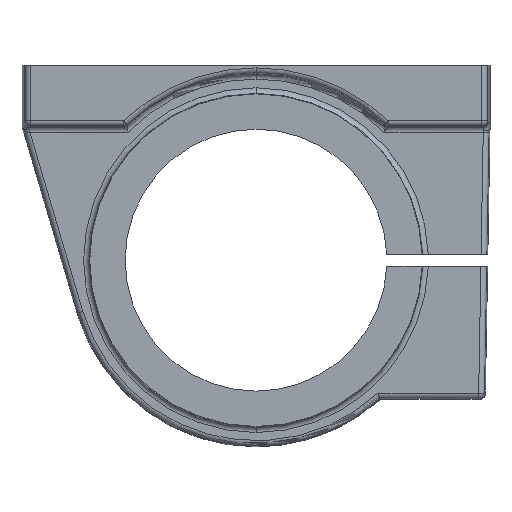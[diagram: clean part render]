
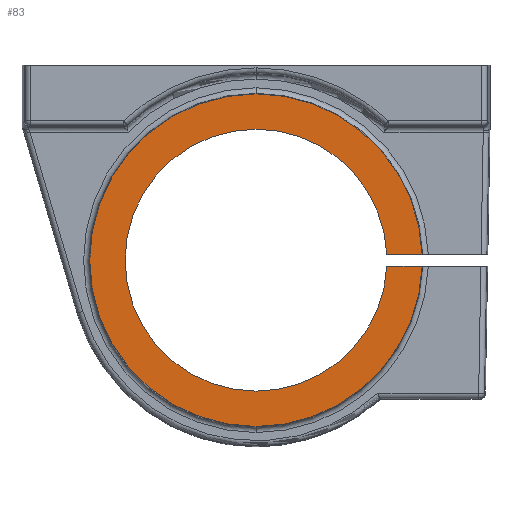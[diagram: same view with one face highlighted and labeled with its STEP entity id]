
A CAD part, front view. The second image highlights one B-rep face of the part: STEP entity #83.
In plain terms, the highlighted planar face has unit normal (0, -1, 0).
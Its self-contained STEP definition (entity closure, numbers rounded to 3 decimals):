
#34 = CARTESIAN_POINT ( 'NONE',  ( 0., -24., -55. ) ) ;
#41 = EDGE_LOOP ( 'NONE', ( #1483, #3687, #1190, #542, #2112, #926, #2210, #2917 ) ) ;
#61 = DIRECTION ( 'NONE',  ( 1., 0., 0. ) ) ;
#83 = ADVANCED_FACE ( 'NONE', ( #2441 ), #4465, .T. ) ;
#124 = VECTOR ( 'NONE', #61, 1000. ) ;
#241 = EDGE_CURVE ( 'NONE', #3679, #2361, #3383, .T. ) ;
#296 = DIRECTION ( 'NONE',  ( 0., 1., 0. ) ) ;
#352 = DIRECTION ( 'NONE',  ( 0., -1., 0. ) ) ;
#399 = DIRECTION ( 'NONE',  ( 0., 0., -1. ) ) ;
#542 = ORIENTED_EDGE ( 'NONE', *, *, #3500, .F. ) ;
#558 = DIRECTION ( 'NONE',  ( 0., 0., -1. ) ) ;
#691 = CARTESIAN_POINT ( 'NONE',  ( 0., -24., -31.5 ) ) ;
#912 = CIRCLE ( 'NONE', #1788, 29.843 ) ;
#926 = ORIENTED_EDGE ( 'NONE', *, *, #241, .T. ) ;
#931 = CARTESIAN_POINT ( 'NONE',  ( 23.475, -24., -32.575 ) ) ;
#1107 = DIRECTION ( 'NONE',  ( 0., 1., 0. ) ) ;
#1190 = ORIENTED_EDGE ( 'NONE', *, *, #1772, .F. ) ;
#1202 = DIRECTION ( 'NONE',  ( 0., 1., 0. ) ) ;
#1259 = DIRECTION ( 'NONE',  ( 0., 0., -1. ) ) ;
#1344 = AXIS2_PLACEMENT_3D ( 'NONE', #3384, #3776, #3099 ) ;
#1471 = LINE ( 'NONE', #2478, #124 ) ;
#1483 = ORIENTED_EDGE ( 'NONE', *, *, #2620, .F. ) ;
#1590 = VERTEX_POINT ( 'NONE', #2790 ) ;
#1595 = CIRCLE ( 'NONE', #3321, 29.843 ) ;
#1612 = LINE ( 'NONE', #2959, #1781 ) ;
#1725 = DIRECTION ( 'NONE',  ( 0., 0., -1. ) ) ;
#1772 = EDGE_CURVE ( 'NONE', #2090, #3126, #2235, .T. ) ;
#1781 = VECTOR ( 'NONE', #3970, 1000. ) ;
#1788 = AXIS2_PLACEMENT_3D ( 'NONE', #3266, #4302, #1259 ) ;
#1956 = CARTESIAN_POINT ( 'NONE',  ( 0., -24., -31.5 ) ) ;
#2002 = DIRECTION ( 'NONE',  ( 0., 0., -1. ) ) ;
#2090 = VERTEX_POINT ( 'NONE', #2216 ) ;
#2112 = ORIENTED_EDGE ( 'NONE', *, *, #4158, .F. ) ;
#2143 = AXIS2_PLACEMENT_3D ( 'NONE', #3508, #1107, #399 ) ;
#2210 = ORIENTED_EDGE ( 'NONE', *, *, #2937, .T. ) ;
#2216 = CARTESIAN_POINT ( 'NONE',  ( 0., -24., -61.343 ) ) ;
#2235 = CIRCLE ( 'NONE', #4439, 29.843 ) ;
#2361 = VERTEX_POINT ( 'NONE', #34 ) ;
#2383 = VERTEX_POINT ( 'NONE', #2801 ) ;
#2430 = AXIS2_PLACEMENT_3D ( 'NONE', #691, #352, #1725 ) ;
#2441 = FACE_OUTER_BOUND ( 'NONE', #41, .T. ) ;
#2478 = CARTESIAN_POINT ( 'NONE',  ( 0., -24., -32.575 ) ) ;
#2620 = EDGE_CURVE ( 'NONE', #1590, #4467, #1612, .T. ) ;
#2621 = DIRECTION ( 'NONE',  ( 0., 0., -1. ) ) ;
#2712 = VERTEX_POINT ( 'NONE', #4103 ) ;
#2774 = EDGE_CURVE ( 'NONE', #2712, #4467, #3147, .T. ) ;
#2790 = CARTESIAN_POINT ( 'NONE',  ( 29.824, -24., -30.425 ) ) ;
#2801 = CARTESIAN_POINT ( 'NONE',  ( 29.824, -24., -32.575 ) ) ;
#2858 = CARTESIAN_POINT ( 'NONE',  ( 23.475, -24., -30.425 ) ) ;
#2917 = ORIENTED_EDGE ( 'NONE', *, *, #2774, .T. ) ;
#2937 = EDGE_CURVE ( 'NONE', #2361, #2712, #4314, .T. ) ;
#2942 = CARTESIAN_POINT ( 'NONE',  ( 0., -24., -31.5 ) ) ;
#2959 = CARTESIAN_POINT ( 'NONE',  ( 0., -24., -30.425 ) ) ;
#3041 = DIRECTION ( 'NONE',  ( 0., 1., 0. ) ) ;
#3099 = DIRECTION ( 'NONE',  ( 0., 0., -1. ) ) ;
#3126 = VERTEX_POINT ( 'NONE', #4355 ) ;
#3147 = CIRCLE ( 'NONE', #1344, 23.5 ) ;
#3266 = CARTESIAN_POINT ( 'NONE',  ( 0., -24., -31.5 ) ) ;
#3321 = AXIS2_PLACEMENT_3D ( 'NONE', #2942, #1202, #2621 ) ;
#3383 = CIRCLE ( 'NONE', #4440, 23.5 ) ;
#3384 = CARTESIAN_POINT ( 'NONE',  ( 0., -24., -31.5 ) ) ;
#3443 = CARTESIAN_POINT ( 'NONE',  ( 0., -24., -31.5 ) ) ;
#3500 = EDGE_CURVE ( 'NONE', #2383, #2090, #912, .T. ) ;
#3508 = CARTESIAN_POINT ( 'NONE',  ( 0., -24., -31.5 ) ) ;
#3679 = VERTEX_POINT ( 'NONE', #931 ) ;
#3687 = ORIENTED_EDGE ( 'NONE', *, *, #4335, .F. ) ;
#3776 = DIRECTION ( 'NONE',  ( 0., 1., 0. ) ) ;
#3970 = DIRECTION ( 'NONE',  ( -1., 0., 0. ) ) ;
#4103 = CARTESIAN_POINT ( 'NONE',  ( 0., -24., -8. ) ) ;
#4158 = EDGE_CURVE ( 'NONE', #3679, #2383, #1471, .T. ) ;
#4302 = DIRECTION ( 'NONE',  ( 0., 1., 0. ) ) ;
#4314 = CIRCLE ( 'NONE', #2143, 23.5 ) ;
#4335 = EDGE_CURVE ( 'NONE', #3126, #1590, #1595, .T. ) ;
#4355 = CARTESIAN_POINT ( 'NONE',  ( 0., -24., -1.657 ) ) ;
#4439 = AXIS2_PLACEMENT_3D ( 'NONE', #1956, #296, #558 ) ;
#4440 = AXIS2_PLACEMENT_3D ( 'NONE', #3443, #3041, #2002 ) ;
#4465 = PLANE ( 'NONE',  #2430 ) ;
#4467 = VERTEX_POINT ( 'NONE', #2858 ) ;
